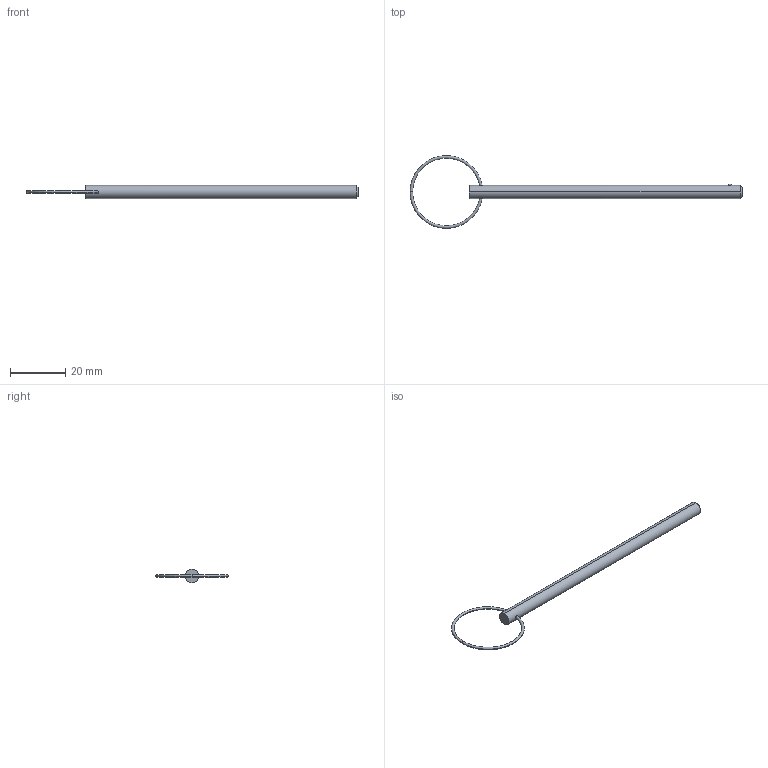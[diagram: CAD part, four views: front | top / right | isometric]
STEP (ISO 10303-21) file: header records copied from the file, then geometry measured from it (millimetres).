
FILE_DESCRIPTION (( 'STEP AP203' ), '1' );
FILE_NAME ('33012.W1835.step', '2024-11-01T14:06:29', ( '' ), ( '' ), 'SwSTEP 2.0', 'SolidWorks 2019', '' );
FILE_SCHEMA (( 'CONFIG_CONTROL_DESIGN' ));
Length unit declared in the file: millimetre
Products named in the file (3): 33012.W1835; Part1_33012.W1835; Part2_33012.W1835
Assembly tree (2 placements, depth 2):
  33012.W1835
    Part1_33012.W1835
    Part2_33012.W1835
Bounding box: 120.24 x 26.35 x 4.76 mm (x, y, z)
Volume: 1806.3 mm3; surface area: 1761 mm2
Topology: 2 solids, 2 shells, 16 faces, 31 edges, 18 vertices
Faces by surface type: torus 8, sphere 2, cone 2, cylinder 2, plane 2
Entity records: 779 total; most frequent: CARTESIAN_POINT 136, DIRECTION 88, ORIENTED_EDGE 62, AXIS2_PLACEMENT_3D 42, EDGE_CURVE 31, PERSON_AND_ORGANIZATION 26, CIRCLE 21, DATE_AND_TIME 19
